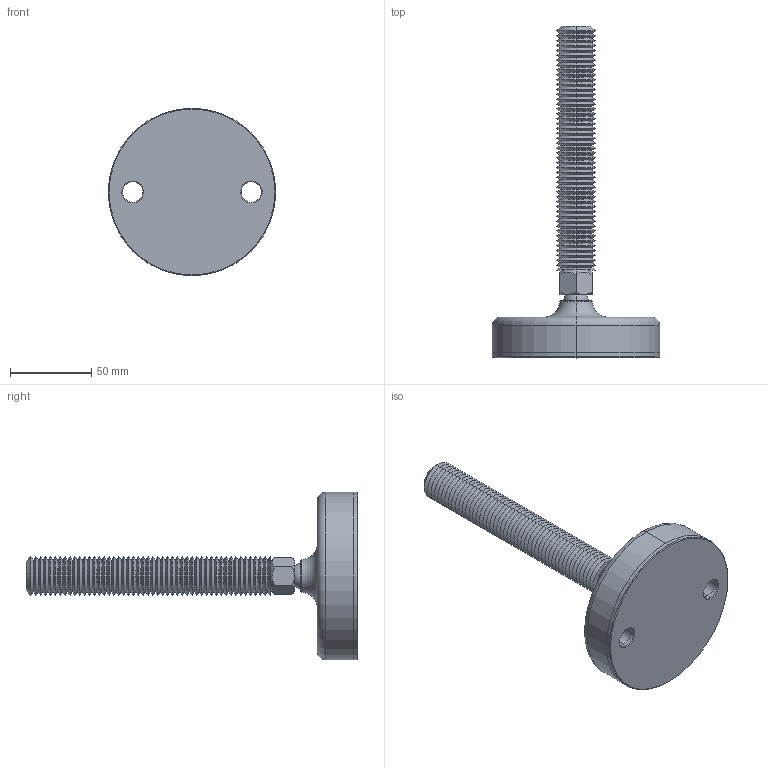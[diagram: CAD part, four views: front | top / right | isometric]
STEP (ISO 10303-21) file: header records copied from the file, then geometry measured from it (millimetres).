
FILE_DESCRIPTION (( 'STEP AP203' ), '1' );
FILE_NAME ('34724.W2403.step', '2019-11-28T22:20:36', ( '' ), ( '' ), 'SwSTEP 2.0', 'SolidWorks 2017', '' );
FILE_SCHEMA (( 'CONFIG_CONTROL_DESIGN' ));
Length unit declared in the file: millimetre
Products named in the file (4): Part1_34724.W2403; Part2_34724.W2403; Part3_34724.W2403; 34724.W2403
Assembly tree (3 placements, depth 2):
  34724.W2403
    Part1_34724.W2403
    Part2_34724.W2403
    Part3_34724.W2403
Bounding box: 103 x 204 x 103 mm (x, y, z)
Volume: 265136.3 mm3; surface area: 64427.6 mm2
Topology: 3 solids, 3 shells, 248 faces, 511 edges, 269 vertices
Faces by surface type: cone 214, plane 14, cylinder 12, sphere 4, torus 4
Entity records: 6866 total; most frequent: DIRECTION 1256, CARTESIAN_POINT 1172, ORIENTED_EDGE 1004, AXIS2_PLACEMENT_3D 512, EDGE_CURVE 502, VERTEX_POINT 264, EDGE_LOOP 260, CIRCLE 258
